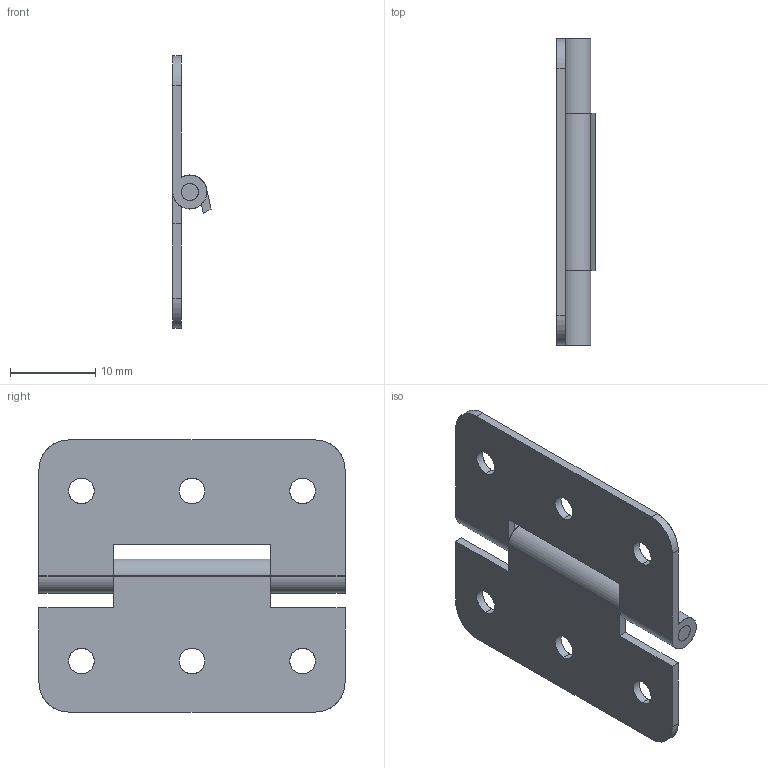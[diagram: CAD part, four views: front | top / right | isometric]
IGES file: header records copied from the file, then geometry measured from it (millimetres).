
Start section: SolidWorks IGES FILE using analytic representation for surfaces
Global section: file name: E:\妙子\仕事\solidworks\ヒンジ0829\DEH-53\DEH-53-2\DEH-53-2.IGS; native system: SolidWorks 2003 by SolidWorks Corporation; preprocessor: Version 5.3; author: 妙子,,; organization: 11; date: 130829.194226; units: millimetre
Bounding box: 4.5 x 36 x 32 mm (x, y, z)
Surface area: 2979.5 mm2 (no closed solid volume)
Topology: 0 solids, 0 shells, 48 faces, 1016 edges, 1016 vertices
Faces by surface type: revolution 26, bspline 22
